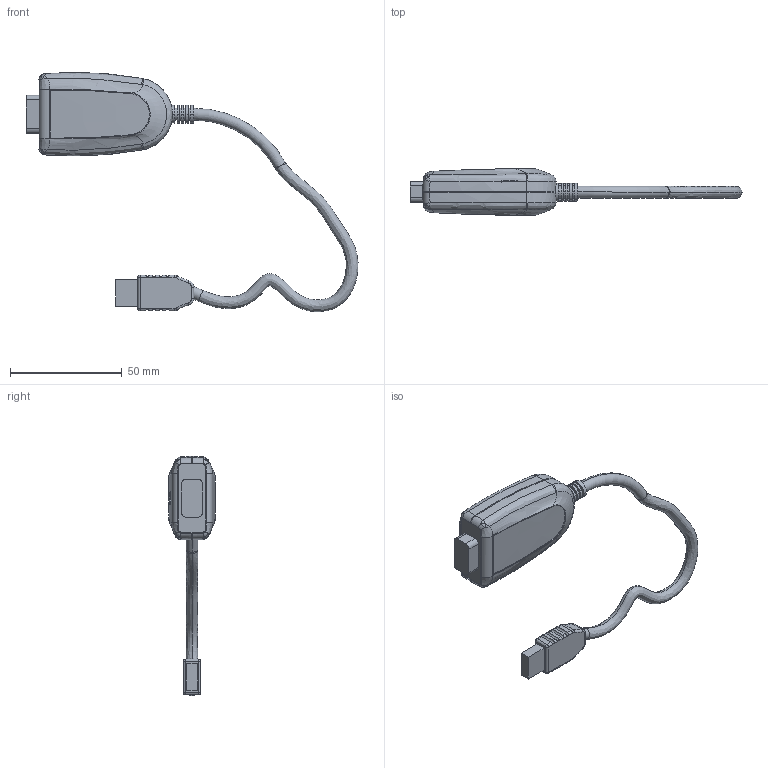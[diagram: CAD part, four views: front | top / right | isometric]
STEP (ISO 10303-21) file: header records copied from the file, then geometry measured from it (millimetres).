
FILE_DESCRIPTION((''),'2;1');
FILE_NAME('PRT0001','2011-10-07T',('Vincent_Huang'),(''),'PRO/ENGINEER BY PARAMETRIC TECHNOLOGY CORPORATION, 2004320','PRO/ENGINEER BY PARAMETRIC TECHNOLOGY CORPORATION, 2004320','');
FILE_SCHEMA(('CONFIG_CONTROL_DESIGN'));
Length unit declared in the file: millimetre
Products named in the file (1): PRT0001
Bounding box: 148.63 x 21 x 107.08 mm (x, y, z)
Volume: 21441 mm3; surface area: 22659.8 mm2
Topology: 1 solids, 1 shells, 508 faces, 1388 edges, 875 vertices
Faces by surface type: plane 211, cylinder 130, bspline 85, cone 32, extrusion 28, torus 14, sphere 8
Entity records: 25561 total; most frequent: CARTESIAN_POINT 13649, ORIENTED_EDGE 2768, DIRECTION 2044, EDGE_CURVE 1384, VERTEX_POINT 875, AXIS2_PLACEMENT_3D 719, VECTOR 606, LINE 578
